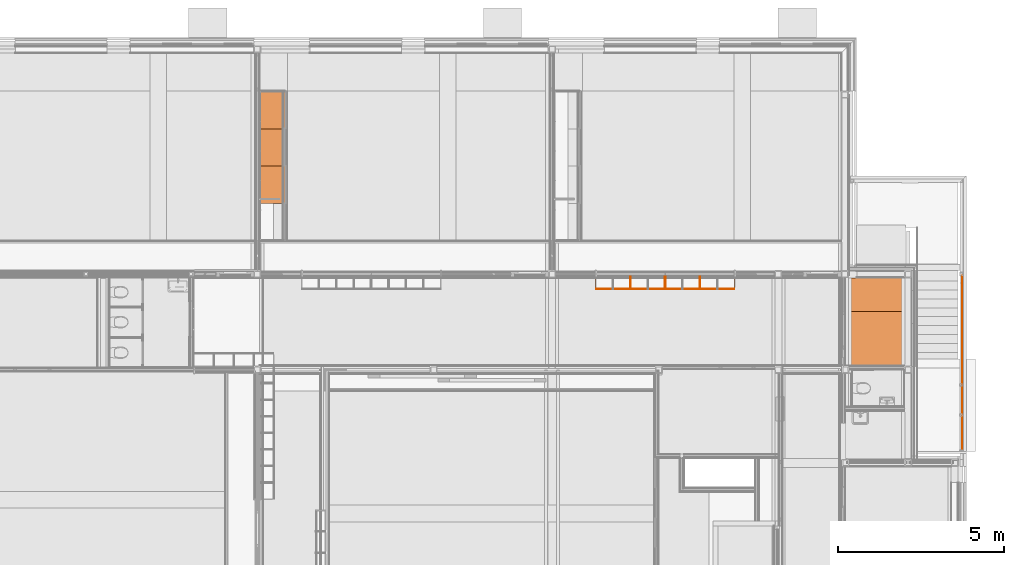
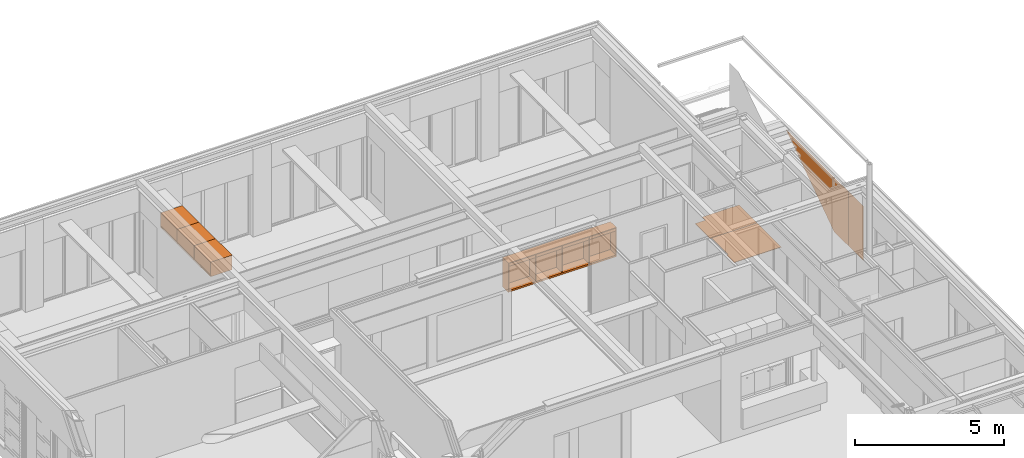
# One storey, part 159 of 165: 15 proxies, 1 opening.
"""IFC2X3 building model written with IfcOpenShell, lengths in millimetres."""

from ifc_helpers import new_model, entity, si_unit, converted_unit, derived_unit, money_unit, direction, frame, origin_with_axes, place, context, subcontext, project, spatial, faceted_brep, material, type_object, element, save


model = new_model("IFC2X3")

# Units and contexts
model_context = context("Model", 3, precision=0.01, world=origin_with_axes(), true_north=direction((0.0, 1.0)))
body_context = subcontext(model_context, "Body", "Model", "MODEL_VIEW")
ifc_project = project(units=[si_unit("LENGTHUNIT", "METRE", prefix="MILLI"), si_unit("AREAUNIT", "SQUARE_METRE"), si_unit("VOLUMEUNIT", "CUBIC_METRE"), converted_unit("PLANEANGLEUNIT", "DEGREE", entity("IfcPlaneAngleMeasure", 0.0174532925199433), si_unit("PLANEANGLEUNIT", "RADIAN"), dimensions=[0, 0, 0, 0, 0, 0, 0]), money_unit("EUR"), converted_unit("TIMEUNIT", "Year", entity("IfcTimeMeasure", 31556926.0), si_unit("TIMEUNIT", "SECOND"), dimensions=[0, 0, 1, 0, 0, 0, 0]), si_unit("MASSUNIT", "GRAM", prefix="KILO"), si_unit("THERMODYNAMICTEMPERATUREUNIT", "DEGREE_CELSIUS"), si_unit("LUMINOUSINTENSITYUNIT", "LUMEN"), si_unit("ENERGYUNIT", "JOULE", prefix="MEGA"), derived_unit("THERMALCONDUCTANCEUNIT", [(si_unit("POWERUNIT", "WATT"), 1), (si_unit("LENGTHUNIT", "METRE"), -1), (si_unit("THERMODYNAMICTEMPERATUREUNIT", "KELVIN"), -1)]), derived_unit("SPECIFICHEATCAPACITYUNIT", [(si_unit("ENERGYUNIT", "JOULE"), 1), (si_unit("MASSUNIT", "GRAM", prefix="KILO"), -1), (si_unit("THERMODYNAMICTEMPERATUREUNIT", "KELVIN"), -1)]), derived_unit("MASSDENSITYUNIT", [(si_unit("MASSUNIT", "GRAM", prefix="KILO"), 1), (si_unit("VOLUMEUNIT", "CUBIC_METRE"), -1)])], contexts=[model_context])

# Site, building, storey
site_placement = place(None, origin_with_axes())
site = spatial("IfcSite", under=ifc_project, at=site_placement, Name="Site", CompositionType="ELEMENT")
building_placement = place(site_placement, origin_with_axes())
building = spatial("IfcBuilding", under=site, at=building_placement, Name="Naam gebouw", CompositionType="ELEMENT")
storey_placement = place(building_placement, origin_with_axes())
storey = spatial("IfcBuildingStorey", under=building, at=storey_placement, Name="Begane grond", CompositionType="ELEMENT", Elevation=0.0)

# Proxies
ifc_material_1 = material(Name="Hout AFW")
building_element_proxy_type_1 = type_object("IfcBuildingElementProxyType", Name="Hout AFW 18", PredefinedType="NOTDEFINED")
proxy_1_placement = place(storey_placement, frame((19019.99903999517, 21862.47621406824, 1062.0), z_axis=(0.0, 0.0, 1.0), x_axis=(1.0, 0.0, 0.0)))
element("IfcBuildingElementProxy", 1, at=proxy_1_placement, inside=storey, type_object=building_element_proxy_type_1, material=ifc_material_1, Name="i HOUT_Wand-x", context=body_context, shape_type="Brep", body=[
    faceted_brep([(0.0, 18.00000000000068, 0.0), (1024.995906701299, 18.00000000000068, 0.0), (1024.995906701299, 0.0, 0.0), (0.0, 0.0, 0.0), (0.0, 18.00000000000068, 117.9999999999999), (1024.995906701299, 18.00000000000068, 117.9999999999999), (1024.995906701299, 0.0, 117.9999999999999), (0.0, 0.0, 117.9999999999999)], [[[0, 1, 2, 3]], [[4, 5, 1, 0]], [[2, 1, 5, 6]], [[3, 2, 6, 7]], [[4, 0, 3, 7]], [[7, 6, 5, 4]]]),
])
proxy_2_placement = place(storey_placement, frame((20064.99494669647, 21862.47621406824, 1062.0), z_axis=(0.0, 0.0, 1.0), x_axis=(1.0, 0.0, 0.0)))
element("IfcBuildingElementProxy", 2, at=proxy_2_placement, inside=storey, type_object=building_element_proxy_type_1, material=ifc_material_1, Name="i HOUT_Wand-x", context=body_context, shape_type="Brep", body=[
    faceted_brep([(0.0, 18.00000000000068, 0.0), (1024.991813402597, 18.00000000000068, 0.0), (1024.991813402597, 0.0, 0.0), (0.0, 0.0, 0.0), (0.0, 18.00000000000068, 117.9999999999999), (1024.991813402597, 18.00000000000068, 117.9999999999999), (1024.991813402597, 0.0, 117.9999999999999), (0.0, 0.0, 117.9999999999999)], [[[0, 1, 2, 3]], [[4, 5, 1, 0]], [[2, 1, 5, 6]], [[3, 2, 6, 7]], [[4, 0, 3, 7]], [[7, 6, 5, 4]]]),
])
proxy_3_placement = place(storey_placement, frame((22154.97857350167, 21862.47621406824, 1062.0), z_axis=(0.0, 0.0, 1.0), x_axis=(1.0, 0.0, 0.0)))
element("IfcBuildingElementProxy", 3, at=proxy_3_placement, inside=storey, type_object=building_element_proxy_type_1, material=ifc_material_1, Name="i HOUT_Wand-x", context=body_context, shape_type="Brep", body=[
    faceted_brep([(0.0, 18.00000000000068, 0.0), (1025.020466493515, 18.00000000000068, 0.0), (1025.020466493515, 0.0, 0.0), (0.0, 0.0, 0.0), (0.0, 18.00000000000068, 117.9999999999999), (1025.020466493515, 18.00000000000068, 117.9999999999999), (1025.020466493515, 0.0, 117.9999999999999), (0.0, 0.0, 117.9999999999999)], [[[0, 1, 2, 3]], [[4, 5, 1, 0]], [[2, 1, 5, 6]], [[3, 2, 6, 7]], [[4, 0, 3, 7]], [[7, 6, 5, 4]]]),
])
proxy_4_placement = place(storey_placement, frame((21109.98676009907, 21862.47621406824, 1062.0), z_axis=(0.0, 0.0, 1.0), x_axis=(1.0, 0.0, 0.0)))
element("IfcBuildingElementProxy", 4, at=proxy_4_placement, inside=storey, type_object=building_element_proxy_type_1, material=ifc_material_1, Name="i HOUT_Wand-x", context=body_context, shape_type="Brep", body=[
    faceted_brep([(0.0, 18.00000000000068, 0.0), (1024.991813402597, 18.00000000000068, 0.0), (1024.991813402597, 0.0, 0.0), (0.0, 0.0, 0.0), (0.0, 18.00000000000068, 117.9999999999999), (1024.991813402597, 18.00000000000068, 117.9999999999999), (1024.991813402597, 0.0, 117.9999999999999), (0.0, 0.0, 117.9999999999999)], [[[0, 1, 2, 3]], [[4, 5, 1, 0]], [[2, 1, 5, 6]], [[3, 2, 6, 7]], [[4, 0, 3, 7]], [[7, 6, 5, 4]]]),
])
building_element_proxy_type_2 = type_object("IfcBuildingElementProxyType", Name="Onderkast recht 26", PredefinedType="NOTDEFINED")
proxy_5_placement = place(storey_placement, frame((23199.99903999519, 22262.47925041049, 0.0), z_axis=(0.0, 0.0, 1.0), x_axis=(1.0, 0.0, 0.0)))
element("IfcBuildingElementProxy", 5, at=proxy_5_placement, inside=storey, type_object=building_element_proxy_type_2, Name="_Leeg", context=body_context, shape_type="Brep", body=[
    faceted_brep([(-20.0, -400.0030363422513, 50.0), (-20.0, -400.0030363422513, 70.0), (-4180.00000000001, -400.0030363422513, 70.0), (-4180.00000000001, -400.0030363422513, 50.0), (-20.0, 0.0, 50.0), (-20.0, 0.0, 70.0), (-4180.00000000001, 0.0, 70.0), (-4180.00000000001, 0.0, 50.0)], [[[0, 1, 2, 3]], [[4, 5, 1, 0]], [[1, 5, 6, 2]], [[3, 2, 6, 7]], [[0, 3, 7, 4]], [[7, 6, 5, 4]]]),
    faceted_brep([(-20.0, -400.0030363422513, 1180.0), (-20.0, -400.0030363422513, 1200.0), (-4180.00000000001, -400.0030363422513, 1200.0), (-4180.00000000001, -400.0030363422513, 1180.0), (-20.0, 0.0, 1180.0), (-20.0, 0.0, 1200.0), (-4180.00000000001, 0.0, 1200.0), (-4180.00000000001, 0.0, 1180.0)], [[[0, 1, 2, 3]], [[4, 5, 1, 0]], [[1, 5, 6, 2]], [[3, 2, 6, 7]], [[0, 3, 7, 4]], [[7, 6, 5, 4]]]),
    faceted_brep([(0.0, 0.0, 50.0), (0.0, 0.0, 1200.0), (0.0, -400.0030363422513, 1200.0), (0.0, -400.0030363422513, 50.0), (-20.0, 0.0, 50.0), (-20.0, 0.0, 1200.0), (-20.0, -400.0030363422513, 1200.0), (-20.0, -400.0030363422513, 50.0)], [[[0, 1, 2, 3]], [[4, 5, 1, 0]], [[1, 5, 6, 2]], [[3, 2, 6, 7]], [[0, 3, 7, 4]], [[7, 6, 5, 4]]]),
    faceted_brep([(-4200.00000000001, -400.0030363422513, 50.0), (-4200.00000000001, -400.0030363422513, 1200.0), (-4200.00000000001, 0.0, 1200.0), (-4200.00000000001, 0.0, 50.0), (-4180.00000000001, -400.0030363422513, 50.0), (-4180.00000000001, -400.0030363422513, 1200.0), (-4180.00000000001, 0.0, 1200.0), (-4180.00000000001, 0.0, 50.0)], [[[0, 1, 2, 3]], [[4, 5, 1, 0]], [[1, 5, 6, 2]], [[3, 2, 6, 7]], [[0, 3, 7, 4]], [[7, 6, 5, 4]]]),
    faceted_brep([(-4180.00000000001, -10.0, 70.0), (-4180.00000000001, -10.0, 1180.0), (-19.99999999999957, -10.0, 1180.0), (-19.99999999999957, -10.0, 70.0), (-4180.00000000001, -20.0, 70.0), (-4180.00000000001, -20.0, 1180.0), (-19.99999999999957, -20.0, 1180.0), (-19.99999999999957, -20.0, 70.0)], [[[0, 1, 2, 3]], [[4, 5, 1, 0]], [[1, 5, 6, 2]], [[3, 2, 6, 7]], [[0, 3, 7, 4]], [[7, 6, 5, 4]]]),
    faceted_brep([(0.0, -400.0030363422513, 0.0), (0.0, -400.0030363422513, 50.0), (-4200.00000000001, -400.0030363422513, 50.0), (-4200.00000000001, -400.0030363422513, 0.0), (0.0, 0.0, 0.0), (0.0, 0.0, 50.0), (-4200.00000000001, 0.0, 50.0), (-4200.00000000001, 0.0, 0.0)], [[[0, 1, 2, 3]], [[4, 5, 1, 0]], [[1, 5, 6, 2]], [[3, 2, 6, 7]], [[0, 3, 7, 4]], [[7, 6, 5, 4]]]),
])
proxy_6_placement = place(storey_placement, frame((8912.500000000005, 27807.99984707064, 2600.0), z_axis=(0.0, 0.0, 1.0), x_axis=(0.0, 1.0, 0.0)))
element("IfcBuildingElementProxy", 6, at=proxy_6_placement, inside=storey, type_object=building_element_proxy_type_2, Name="_Leeg", context=body_context, shape_type="Brep", body=[
    faceted_brep([(-1102.000141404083, -1.999999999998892, 17.99999999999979), (-18.00000000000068, -1.999999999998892, 17.99999999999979), (-18.00000000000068, 0.0, 17.99999999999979), (-1102.000141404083, 0.0, 17.99999999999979), (-18.00000000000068, -1.999999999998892, 0.0), (-1102.000141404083, -1.999999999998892, 0.0), (-18.00000000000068, 0.0, 0.0), (-1102.000141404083, 0.0, 0.0)], [[[0, 1, 2, 3]], [[4, 1, 0, 5]], [[1, 4, 6, 2]], [[6, 7, 3, 2]], [[5, 0, 3, 7]], [[4, 5, 7, 6]]]),
    faceted_brep([(-1102.000141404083, -18.00000000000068, 69.9999999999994), (-18.00000000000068, -18.00000000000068, 69.9999999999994), (-18.00000000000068, -18.00000000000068, 581.9999999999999), (-1102.000141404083, -18.00000000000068, 581.9999999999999), (-18.00000000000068, -9.000000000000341, 69.9999999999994), (-1102.000141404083, -9.000000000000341, 69.9999999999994), (-18.00000000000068, -9.000000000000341, 581.9999999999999), (-1102.000141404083, -9.000000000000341, 581.9999999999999)], [[[0, 1, 2, 3]], [[4, 1, 0, 5]], [[1, 4, 6, 2]], [[6, 7, 3, 2]], [[5, 0, 3, 7]], [[4, 5, 7, 6]]]),
    faceted_brep([(-1102.000141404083, -827.0, 581.9999999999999), (-18.00000000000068, -827.0, 581.9999999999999), (-18.00000000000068, -827.0, 600.0000000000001), (-1102.000141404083, -827.0, 600.0000000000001), (-18.00000000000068, 0.0, 581.9999999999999), (-1102.000141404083, 0.0, 581.9999999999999), (-18.00000000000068, 0.0, 600.0000000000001), (-1102.000141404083, 0.0, 600.0000000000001)], [[[0, 1, 2, 3]], [[4, 1, 0, 5]], [[1, 4, 6, 2]], [[3, 2, 6, 7]], [[5, 0, 3, 7]], [[4, 5, 7, 6]]]),
    faceted_brep([(0.0, -1.999999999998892, 69.9999999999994), (0.0, -1.999999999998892, 0.0), (0.0, 0.0, 0.0), (0.0, 0.0, 600.0000000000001), (0.0, -827.0, 600.0000000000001), (0.0, -827.0, 0.0), (0.0, -21.99999999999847, 0.0), (0.0, -21.99999999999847, 69.9999999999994), (-18.00000000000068, -1.999999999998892, 69.9999999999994), (-18.00000000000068, -1.999999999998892, 0.0), (-18.00000000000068, 0.0, 0.0), (-18.00000000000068, 0.0, 600.0000000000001), (-18.00000000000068, -827.0, 600.0000000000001), (-18.00000000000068, -827.0, 0.0), (-18.00000000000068, -21.99999999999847, 0.0), (-18.00000000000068, -21.99999999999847, 69.9999999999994)], [[[0, 1, 2, 3, 4, 5, 6, 7]], [[1, 0, 8, 9]], [[1, 9, 10, 2]], [[2, 10, 11, 3]], [[4, 3, 11, 12]], [[13, 5, 4, 12]], [[14, 6, 5, 13]], [[7, 6, 14, 15]], [[0, 7, 15, 8]], [[15, 14, 13, 12, 11, 10, 9, 8]]]),
    faceted_brep([(-1102.000141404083, -1.999999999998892, 69.9999999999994), (-1102.000141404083, -1.999999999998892, 0.0), (-1102.000141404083, 0.0, 0.0), (-1102.000141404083, 0.0, 600.0000000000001), (-1102.000141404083, -827.0, 600.0000000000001), (-1102.000141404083, -827.0, 0.0), (-1102.000141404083, -21.99999999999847, 0.0), (-1102.000141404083, -21.99999999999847, 69.9999999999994), (-1120.000141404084, -1.999999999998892, 69.9999999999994), (-1120.000141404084, -1.999999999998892, 0.0), (-1120.000141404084, 0.0, 0.0), (-1120.000141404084, 0.0, 600.0000000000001), (-1120.000141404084, -827.0, 600.0000000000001), (-1120.000141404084, -827.0, 0.0), (-1120.000141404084, -21.99999999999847, 0.0), (-1120.000141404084, -21.99999999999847, 69.9999999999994)], [[[0, 1, 2, 3, 4, 5, 6, 7]], [[1, 0, 8, 9]], [[1, 9, 10, 2]], [[2, 10, 11, 3]], [[11, 12, 4, 3]], [[13, 5, 4, 12]], [[14, 6, 5, 13]], [[7, 6, 14, 15]], [[0, 7, 15, 8]], [[15, 14, 13, 12, 11, 10, 9, 8]]]),
    faceted_brep([(-18.00000000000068, -21.99999999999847, 0.0), (-18.00000000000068, -21.99999999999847, 17.99999999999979), (-18.00000000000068, -827.0, 17.99999999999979), (-18.00000000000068, -827.0, 0.0), (-1102.000141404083, -21.99999999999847, 17.99999999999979), (-1102.000141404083, -21.99999999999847, 0.0), (-1102.000141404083, -827.0, 17.99999999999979), (-1102.000141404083, -827.0, 0.0)], [[[0, 1, 2, 3]], [[4, 1, 0, 5]], [[1, 4, 6, 2]], [[7, 3, 2, 6]], [[5, 0, 3, 7]], [[4, 5, 7, 6]]]),
    faceted_brep([(-1.000000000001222, -827.0, 0.9999999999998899), (-1.000000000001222, -845.0000000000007, 0.9999999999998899), (-1119.000141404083, -845.0000000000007, 0.9999999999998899), (-1119.000141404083, -827.0, 0.9999999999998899), (-1.000000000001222, -827.0, 598.9999999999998), (-1.000000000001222, -845.0000000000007, 598.9999999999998), (-1119.000141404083, -845.0000000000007, 598.9999999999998), (-1119.000141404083, -827.0, 598.9999999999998)], [[[0, 1, 2, 3]], [[4, 5, 1, 0]], [[1, 5, 6, 2]], [[3, 2, 6, 7]], [[0, 3, 7, 4]], [[7, 6, 5, 4]]]),
])
proxy_7_placement = place(storey_placement, frame((8912.500000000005, 26687.99970566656, 2600.0), z_axis=(0.0, 0.0, 1.0), x_axis=(0.0, 1.0, 0.0)))
element("IfcBuildingElementProxy", 7, at=proxy_7_placement, inside=storey, type_object=building_element_proxy_type_2, Name="_Leeg", context=body_context, shape_type="Brep", body=[
    faceted_brep([(-1102.000141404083, -1.999999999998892, 17.99999999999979), (-18.00000000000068, -1.999999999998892, 17.99999999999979), (-18.00000000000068, 0.0, 17.99999999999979), (-1102.000141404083, 0.0, 17.99999999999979), (-18.00000000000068, -1.999999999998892, 0.0), (-1102.000141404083, -1.999999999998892, 0.0), (-18.00000000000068, 0.0, 0.0), (-1102.000141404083, 0.0, 0.0)], [[[0, 1, 2, 3]], [[4, 1, 0, 5]], [[1, 4, 6, 2]], [[6, 7, 3, 2]], [[5, 0, 3, 7]], [[4, 5, 7, 6]]]),
    faceted_brep([(-1102.000141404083, -18.00000000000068, 69.9999999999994), (-18.00000000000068, -18.00000000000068, 69.9999999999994), (-18.00000000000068, -18.00000000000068, 581.9999999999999), (-1102.000141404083, -18.00000000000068, 581.9999999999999), (-18.00000000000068, -9.000000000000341, 69.9999999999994), (-1102.000141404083, -9.000000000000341, 69.9999999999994), (-18.00000000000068, -9.000000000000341, 581.9999999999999), (-1102.000141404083, -9.000000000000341, 581.9999999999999)], [[[0, 1, 2, 3]], [[4, 1, 0, 5]], [[1, 4, 6, 2]], [[6, 7, 3, 2]], [[5, 0, 3, 7]], [[4, 5, 7, 6]]]),
    faceted_brep([(-1102.000141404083, -827.0, 581.9999999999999), (-18.00000000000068, -827.0, 581.9999999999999), (-18.00000000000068, -827.0, 600.0000000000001), (-1102.000141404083, -827.0, 600.0000000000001), (-18.00000000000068, 0.0, 581.9999999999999), (-1102.000141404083, 0.0, 581.9999999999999), (-18.00000000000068, 0.0, 600.0000000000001), (-1102.000141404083, 0.0, 600.0000000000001)], [[[0, 1, 2, 3]], [[4, 1, 0, 5]], [[1, 4, 6, 2]], [[3, 2, 6, 7]], [[5, 0, 3, 7]], [[4, 5, 7, 6]]]),
    faceted_brep([(0.0, -1.999999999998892, 69.9999999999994), (0.0, -1.999999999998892, 0.0), (0.0, 0.0, 0.0), (0.0, 0.0, 600.0000000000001), (0.0, -827.0, 600.0000000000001), (0.0, -827.0, 0.0), (0.0, -21.99999999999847, 0.0), (0.0, -21.99999999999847, 69.9999999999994), (-18.00000000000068, -1.999999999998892, 69.9999999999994), (-18.00000000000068, -1.999999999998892, 0.0), (-18.00000000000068, 0.0, 0.0), (-18.00000000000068, 0.0, 600.0000000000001), (-18.00000000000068, -827.0, 600.0000000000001), (-18.00000000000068, -827.0, 0.0), (-18.00000000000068, -21.99999999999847, 0.0), (-18.00000000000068, -21.99999999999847, 69.9999999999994)], [[[0, 1, 2, 3, 4, 5, 6, 7]], [[1, 0, 8, 9]], [[1, 9, 10, 2]], [[2, 10, 11, 3]], [[4, 3, 11, 12]], [[13, 5, 4, 12]], [[14, 6, 5, 13]], [[7, 6, 14, 15]], [[0, 7, 15, 8]], [[15, 14, 13, 12, 11, 10, 9, 8]]]),
    faceted_brep([(-1102.000141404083, -1.999999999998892, 69.9999999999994), (-1102.000141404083, -1.999999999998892, 0.0), (-1102.000141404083, 0.0, 0.0), (-1102.000141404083, 0.0, 600.0000000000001), (-1102.000141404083, -827.0, 600.0000000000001), (-1102.000141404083, -827.0, 0.0), (-1102.000141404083, -21.99999999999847, 0.0), (-1102.000141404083, -21.99999999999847, 69.9999999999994), (-1120.000141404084, -1.999999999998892, 69.9999999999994), (-1120.000141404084, -1.999999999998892, 0.0), (-1120.000141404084, 0.0, 0.0), (-1120.000141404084, 0.0, 600.0000000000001), (-1120.000141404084, -827.0, 600.0000000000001), (-1120.000141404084, -827.0, 0.0), (-1120.000141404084, -21.99999999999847, 0.0), (-1120.000141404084, -21.99999999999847, 69.9999999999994)], [[[0, 1, 2, 3, 4, 5, 6, 7]], [[1, 0, 8, 9]], [[1, 9, 10, 2]], [[2, 10, 11, 3]], [[11, 12, 4, 3]], [[13, 5, 4, 12]], [[14, 6, 5, 13]], [[7, 6, 14, 15]], [[0, 7, 15, 8]], [[15, 14, 13, 12, 11, 10, 9, 8]]]),
    faceted_brep([(-18.00000000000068, -21.99999999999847, 0.0), (-18.00000000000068, -21.99999999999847, 17.99999999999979), (-18.00000000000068, -827.0, 17.99999999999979), (-18.00000000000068, -827.0, 0.0), (-1102.000141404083, -21.99999999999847, 17.99999999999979), (-1102.000141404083, -21.99999999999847, 0.0), (-1102.000141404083, -827.0, 17.99999999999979), (-1102.000141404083, -827.0, 0.0)], [[[0, 1, 2, 3]], [[4, 1, 0, 5]], [[1, 4, 6, 2]], [[7, 3, 2, 6]], [[5, 0, 3, 7]], [[4, 5, 7, 6]]]),
    faceted_brep([(-1.000000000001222, -827.0, 0.9999999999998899), (-1.000000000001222, -845.0000000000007, 0.9999999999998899), (-1119.000141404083, -845.0000000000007, 0.9999999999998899), (-1119.000141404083, -827.0, 0.9999999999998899), (-1.000000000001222, -827.0, 598.9999999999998), (-1.000000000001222, -845.0000000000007, 598.9999999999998), (-1119.000141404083, -845.0000000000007, 598.9999999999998), (-1119.000141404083, -827.0, 598.9999999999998)], [[[0, 1, 2, 3]], [[4, 5, 1, 0]], [[1, 5, 6, 2]], [[3, 2, 6, 7]], [[0, 3, 7, 4]], [[7, 6, 5, 4]]]),
])
proxy_8_placement = place(storey_placement, frame((8912.500000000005, 25567.99956426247, 2600.0), z_axis=(0.0, 0.0, 1.0), x_axis=(0.0, 1.0, 0.0)))
element("IfcBuildingElementProxy", 8, at=proxy_8_placement, inside=storey, type_object=building_element_proxy_type_2, Name="_Leeg", context=body_context, shape_type="Brep", body=[
    faceted_brep([(-1102.000141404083, -1.999999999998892, 17.99999999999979), (-18.00000000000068, -1.999999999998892, 17.99999999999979), (-18.00000000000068, 0.0, 17.99999999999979), (-1102.000141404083, 0.0, 17.99999999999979), (-18.00000000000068, -1.999999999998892, 0.0), (-1102.000141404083, -1.999999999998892, 0.0), (-18.00000000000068, 0.0, 0.0), (-1102.000141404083, 0.0, 0.0)], [[[0, 1, 2, 3]], [[4, 1, 0, 5]], [[1, 4, 6, 2]], [[6, 7, 3, 2]], [[5, 0, 3, 7]], [[4, 5, 7, 6]]]),
    faceted_brep([(-1102.000141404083, -18.00000000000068, 69.9999999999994), (-18.00000000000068, -18.00000000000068, 69.9999999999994), (-18.00000000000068, -18.00000000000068, 581.9999999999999), (-1102.000141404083, -18.00000000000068, 581.9999999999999), (-18.00000000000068, -9.000000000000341, 69.9999999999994), (-1102.000141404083, -9.000000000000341, 69.9999999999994), (-18.00000000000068, -9.000000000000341, 581.9999999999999), (-1102.000141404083, -9.000000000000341, 581.9999999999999)], [[[0, 1, 2, 3]], [[4, 1, 0, 5]], [[1, 4, 6, 2]], [[6, 7, 3, 2]], [[5, 0, 3, 7]], [[4, 5, 7, 6]]]),
    faceted_brep([(-1102.000141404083, -827.0, 581.9999999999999), (-18.00000000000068, -827.0, 581.9999999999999), (-18.00000000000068, -827.0, 600.0000000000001), (-1102.000141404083, -827.0, 600.0000000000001), (-18.00000000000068, 0.0, 581.9999999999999), (-1102.000141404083, 0.0, 581.9999999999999), (-18.00000000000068, 0.0, 600.0000000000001), (-1102.000141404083, 0.0, 600.0000000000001)], [[[0, 1, 2, 3]], [[4, 1, 0, 5]], [[1, 4, 6, 2]], [[3, 2, 6, 7]], [[5, 0, 3, 7]], [[4, 5, 7, 6]]]),
    faceted_brep([(0.0, -1.999999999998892, 69.9999999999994), (0.0, -1.999999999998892, 0.0), (0.0, 0.0, 0.0), (0.0, 0.0, 600.0000000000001), (0.0, -827.0, 600.0000000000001), (0.0, -827.0, 0.0), (0.0, -21.99999999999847, 0.0), (0.0, -21.99999999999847, 69.9999999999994), (-18.00000000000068, -1.999999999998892, 69.9999999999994), (-18.00000000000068, -1.999999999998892, 0.0), (-18.00000000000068, 0.0, 0.0), (-18.00000000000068, 0.0, 600.0000000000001), (-18.00000000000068, -827.0, 600.0000000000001), (-18.00000000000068, -827.0, 0.0), (-18.00000000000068, -21.99999999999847, 0.0), (-18.00000000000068, -21.99999999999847, 69.9999999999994)], [[[0, 1, 2, 3, 4, 5, 6, 7]], [[1, 0, 8, 9]], [[1, 9, 10, 2]], [[2, 10, 11, 3]], [[4, 3, 11, 12]], [[13, 5, 4, 12]], [[14, 6, 5, 13]], [[7, 6, 14, 15]], [[0, 7, 15, 8]], [[15, 14, 13, 12, 11, 10, 9, 8]]]),
    faceted_brep([(-1102.000141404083, -1.999999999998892, 69.9999999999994), (-1102.000141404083, -1.999999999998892, 0.0), (-1102.000141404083, 0.0, 0.0), (-1102.000141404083, 0.0, 600.0000000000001), (-1102.000141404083, -827.0, 600.0000000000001), (-1102.000141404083, -827.0, 0.0), (-1102.000141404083, -21.99999999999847, 0.0), (-1102.000141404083, -21.99999999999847, 69.9999999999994), (-1120.000141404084, -1.999999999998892, 69.9999999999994), (-1120.000141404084, -1.999999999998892, 0.0), (-1120.000141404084, 0.0, 0.0), (-1120.000141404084, 0.0, 600.0000000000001), (-1120.000141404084, -827.0, 600.0000000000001), (-1120.000141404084, -827.0, 0.0), (-1120.000141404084, -21.99999999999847, 0.0), (-1120.000141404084, -21.99999999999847, 69.9999999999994)], [[[0, 1, 2, 3, 4, 5, 6, 7]], [[1, 0, 8, 9]], [[1, 9, 10, 2]], [[2, 10, 11, 3]], [[11, 12, 4, 3]], [[13, 5, 4, 12]], [[14, 6, 5, 13]], [[7, 6, 14, 15]], [[0, 7, 15, 8]], [[15, 14, 13, 12, 11, 10, 9, 8]]]),
    faceted_brep([(-18.00000000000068, -21.99999999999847, 0.0), (-18.00000000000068, -21.99999999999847, 17.99999999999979), (-18.00000000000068, -827.0, 17.99999999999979), (-18.00000000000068, -827.0, 0.0), (-1102.000141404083, -21.99999999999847, 17.99999999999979), (-1102.000141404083, -21.99999999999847, 0.0), (-1102.000141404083, -827.0, 17.99999999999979), (-1102.000141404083, -827.0, 0.0)], [[[0, 1, 2, 3]], [[4, 1, 0, 5]], [[1, 4, 6, 2]], [[7, 3, 2, 6]], [[5, 0, 3, 7]], [[4, 5, 7, 6]]]),
    faceted_brep([(-1.000000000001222, -827.0, 0.9999999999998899), (-1.000000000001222, -845.0000000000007, 0.9999999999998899), (-1119.000141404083, -845.0000000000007, 0.9999999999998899), (-1119.000141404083, -827.0, 0.9999999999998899), (-1.000000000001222, -827.0, 598.9999999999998), (-1.000000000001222, -845.0000000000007, 598.9999999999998), (-1119.000141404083, -845.0000000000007, 598.9999999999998), (-1119.000141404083, -827.0, 598.9999999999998)], [[[0, 1, 2, 3]], [[4, 5, 1, 0]], [[1, 5, 6, 2]], [[3, 2, 6, 7]], [[0, 3, 7, 4]], [[7, 6, 5, 4]]]),
])
building_element_proxy_type_3 = type_object("IfcBuildingElementProxyType", Name="D1 26", PredefinedType="NOTDEFINED")
proxy_9_placement = place(storey_placement, frame((30024.00000248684, 18044.99775920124, 359.9999999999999), z_axis=(0.0, 0.0, 1.0), x_axis=(-6.239047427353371e-10, -1.0, 0.0)))
element("IfcBuildingElementProxy", 9, at=proxy_9_placement, inside=storey, type_object=building_element_proxy_type_3, Name="_Merk AM", context=body_context, shape_type="Brep", body=[
    faceted_brep([(-2.188471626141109e-09, 3.509999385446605, 0.0), (985.0092855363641, 3.50999999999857, 0.0), (985.0092855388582, -0.4899999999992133, 0.0), (3.055333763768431e-10, -0.4900006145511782, 0.0), (-2.188471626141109e-09, 3.509999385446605, 2235.012429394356), (985.0092855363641, 3.50999999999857, 2235.012429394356), (985.0092855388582, -0.4899999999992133, 2235.012429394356), (3.055333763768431e-10, -0.4900006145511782, 2235.012429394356)], [[[0, 1, 2, 3]], [[0, 4, 5, 1]], [[1, 5, 6, 2]], [[3, 2, 6, 7]], [[4, 0, 3, 7]], [[5, 4, 7, 6]]]),
])
ifc_material_2 = material(Name="Vloerafwerking - schoonloopzone 2")
building_element_proxy_type_4 = type_object("IfcBuildingElementProxyType", Name="Vloerafwerking - schoonloopzone 2 15", PredefinedType="NOTDEFINED")
proxy_10_placement = place(storey_placement, frame((26461.00001394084, 21204.97624366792, -10.0), z_axis=(0.0, 0.0, 1.0), x_axis=(1.0, 0.0, 0.0)))
element("IfcBuildingElementProxy", 10, at=proxy_10_placement, inside=storey, type_object=building_element_proxy_type_4, material=ifc_material_2, Name="_43 schoonloop zone 2", context=body_context, shape_type="Brep", body=[
    faceted_brep([(0.0, 0.0, 15.0), (0.0, 0.0, 0.0), (1825.000018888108, -5.367515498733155e-05, 0.0), (1825.000018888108, -5.367515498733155e-05, 15.0), (2.958751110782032e-05, 1006.000047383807, 15.0), (2.958751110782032e-05, 1006.000047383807, 0.0), (398.9999802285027, 1005.999993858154, 0.0), (398.9999802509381, 1219.999996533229, 0.0), (1825.000054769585, 1219.999996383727, 0.0), (1825.000054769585, 1219.999996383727, 15.0), (398.9999802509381, 1219.999996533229, 15.0), (398.9999802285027, 1005.999993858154, 15.0)], [[[0, 1, 2, 3]], [[4, 5, 1, 0]], [[2, 1, 5, 6, 7, 8]], [[3, 2, 8, 9]], [[4, 0, 3, 9, 10, 11]], [[11, 6, 5, 4]], [[10, 7, 6, 11]], [[9, 8, 7, 10]]]),
])
ifc_material_3 = material(Name="Vloerafwerking - schoonloopzone 3")
building_element_proxy_type_5 = type_object("IfcBuildingElementProxyType", Name="Vloerafwerking - schoonloopzone 3 15", PredefinedType="NOTDEFINED")
proxy_11_placement = place(storey_placement, frame((28286.00001888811, 21204.97624274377, -10.0), z_axis=(0.0, 0.0, 1.0), x_axis=(1.0, 0.0, 0.0)))
element("IfcBuildingElementProxy", 11, at=proxy_11_placement, inside=storey, type_object=building_element_proxy_type_5, material=ifc_material_3, Name="_schoonloop zone 3", context=body_context, shape_type="Brep", body=[
    faceted_brep([(0.0, 0.0, 15.0), (0.0, 0.0, 0.0), (-1768.000018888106, 0.0, 0.0), (-1768.000018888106, 0.0, 15.0), (0.0, -1629.975849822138, 15.0), (0.0, -1629.975849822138, 0.0), (-1830.000018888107, -1629.975849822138, 0.0), (-1830.000018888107, -1124.000000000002, 0.0), (-1768.000018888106, -1124.000000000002, 0.0), (-1768.000018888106, -1124.000000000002, 15.0), (-1830.000018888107, -1124.000000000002, 15.0), (-1830.000018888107, -1629.975849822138, 15.0)], [[[0, 1, 2, 3]], [[4, 5, 1, 0]], [[2, 1, 5, 6, 7, 8]], [[3, 2, 8, 9]], [[4, 0, 3, 9, 10, 11]], [[11, 6, 5, 4]], [[10, 7, 6, 11]], [[9, 8, 7, 10]]]),
])

# Proxy, opening
ifc_material_4 = material(Name="Metaal - Staal C")
building_element_proxy_type_6 = type_object("IfcBuildingElementProxyType", Name="Metaal - Staal C 4", PredefinedType="NOTDEFINED")
proxy_12_placement = place(storey_placement, frame((30023.99996869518, 22274.99986651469, 360.0124204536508), z_axis=(0.0, 0.0, 1.0), x_axis=(0.0, -1.0, 0.0)))
proxy_12 = element("IfcBuildingElementProxy", 12, at=proxy_12_placement, inside=storey, type_object=building_element_proxy_type_6, material=ifc_material_4, Name="h METAAL_Wand-x", context=body_context, shape_type="Brep", body=[
    faceted_brep([(7.225374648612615, 0.0, 2235.000008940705), (4220.002107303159, 0.0, 2235.000008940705), (4220.002107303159, 0.0, 0.0), (3245.002095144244, 0.0, 0.0), (7.225374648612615, -4.000000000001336, 2235.000008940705), (4220.002107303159, -4.000000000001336, 2235.000008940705), (4220.002107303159, -4.000000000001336, 0.0), (3245.002095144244, -4.000000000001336, 0.0)], [[[0, 1, 2, 3]], [[4, 5, 1, 0]], [[5, 6, 2, 1]], [[3, 2, 6, 7]], [[0, 3, 7, 4]], [[7, 6, 5, 4]]]),
])
opening_placement = place(proxy_12_placement, frame((22274.99986651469, -30023.99996869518, -360.0124204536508), z_axis=(0.0, 0.0, 1.0), x_axis=(0.0, 1.0, 0.0)))
element("IfcOpeningElement", 13, at=opening_placement, cuts=proxy_12, Name="_Opening-x", context=body_context, shape_type="Brep", body=[
    faceted_brep([(29583.99996869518, 19029.99777137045, 360.0124204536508), (29583.99996869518, 22274.9998665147, 360.0124204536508), (30027.99996869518, 22274.9998665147, 360.0124204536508), (30027.99996869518, 19029.99777137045, 360.0124204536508), (29583.99996869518, 22274.99984707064, 2600.000008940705), (30027.99996869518, 22274.99984707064, 2600.000008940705)], [[[0, 1, 2, 3]], [[0, 4, 1]], [[1, 4, 5, 2]], [[3, 2, 5]], [[4, 0, 3, 5]]]),
])

# Proxies
building_element_proxy_type_7 = type_object("IfcBuildingElementProxyType", Name="Hout AFW 20", PredefinedType="NOTDEFINED")
for number, where, z_axis, x_axis, name in (
    (14, (22134.97857350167, 22242.62391659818, 70.0), (0.0, 0.0, 1.0), (0.0, -1.0, 0.0), "i HOUT_Wand-x"),
    (15, (21089.98676009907, 22242.56744106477, 70.0), (0.0, 0.0, 1.0), (0.0, -1.0, 0.0), "i HOUT_Wand-x"),
    (16, (20044.99494669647, 22242.51096553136, 70.0), (0.0, 0.0, 1.0), (0.0, -1.0, 0.0), "i HOUT_Wand-x"),
):
    element("IfcBuildingElementProxy", number, at=place(storey_placement, frame(where, z_axis=z_axis, x_axis=x_axis)), inside=storey, type_object=building_element_proxy_type_7, material=ifc_material_1, Name=name, context=body_context, shape_type="Brep", body=[
        faceted_brep([(0.0, 19.99999999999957, 0.0), (380.006513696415, 19.99999999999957, 0.0), (380.006513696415, 0.0, 0.0), (0.0, 0.0, 0.0), (0.0, 19.99999999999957, 1110.0), (380.006513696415, 19.99999999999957, 1110.0), (380.006513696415, 0.0, 1110.0), (0.0, 0.0, 1110.0)], [[[0, 1, 2, 3]], [[4, 5, 1, 0]], [[2, 1, 5, 6]], [[3, 2, 6, 7]], [[4, 0, 3, 7]], [[7, 6, 5, 4]]]),
    ])

save(model, "model.ifc")
